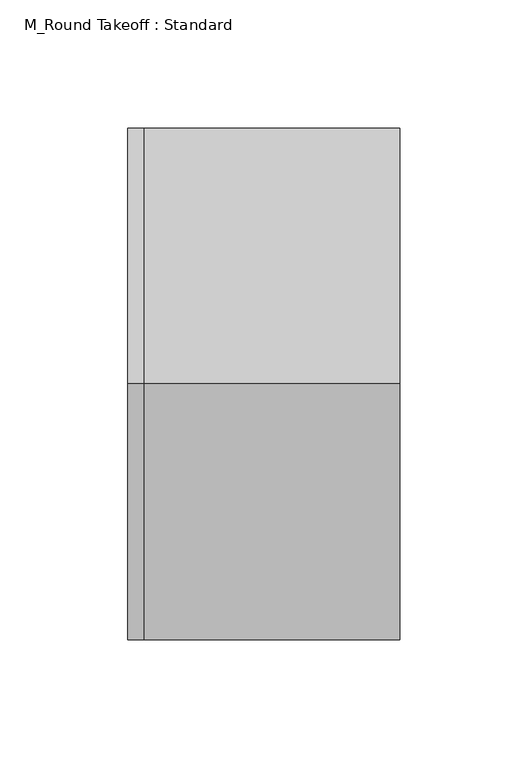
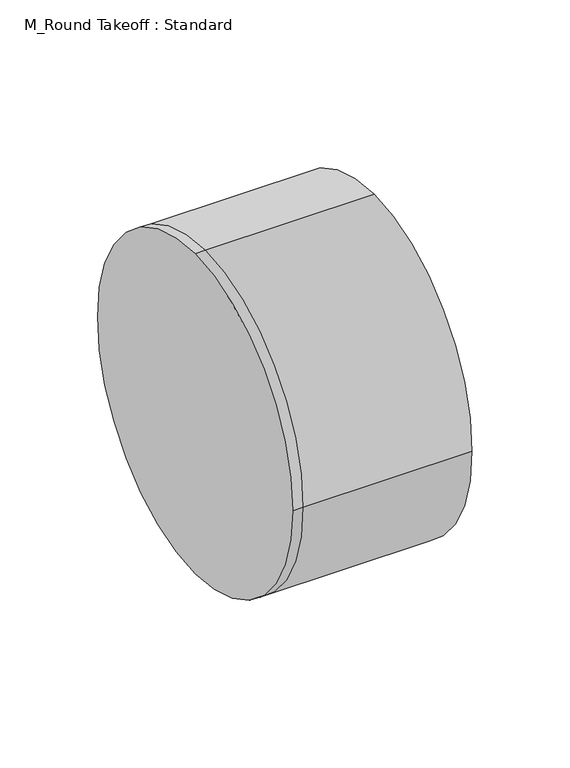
"""IFC4 building model written with IfcOpenShell, lengths in millimetres: duct fitting geometry, M_Round Takeoff : Standard."""

from ifc_helpers import new_model, si_unit, frame, origin, place, context, project, spatial, circle_curve, source, transform, mapped, element, save
from ifc_brep_helpers import plane_surface, cylinder_surface, advanced_brep


def m_round_takeoff_standard_2096653f(model_context):
    return source(origin(), model_context, "Body", "AdvancedBrep", [
        advanced_brep(
        [(-6.0975381, 0.0, 100.0), (-6.0975381, 100.0, 0.0), (-6.0975381, 0.0, -100.0), (-6.0975381, -100.0, 0.0), (0.0, -100.0, 0.0), (0.0, 0.0, 100.0), (0.0, 0.0, -100.0), (0.0, 100.0, 0.0), (100.0015381, 0.0, 100.0), (100.0015381, -100.0, 0.0), (100.0015381, 0.0, -100.0), (100.0015381, 100.0, 0.0)],
        [
            (0, 1, circle_curve(frame((-6.0975381, 0.0, 0.0), z_axis=(-1.0, 0.0, 0.0), x_axis=(0.0, -1.0, 0.0)), 100.0)),
            (1, 2, circle_curve(frame((-6.0975381, 0.0, 0.0), z_axis=(-1.0, 0.0, 0.0), x_axis=(0.0, -1.0, 0.0)), 100.0)),
            (2, 3, circle_curve(frame((-6.0975381, 0.0, 0.0), z_axis=(-1.0, 0.0, 0.0), x_axis=(0.0, -1.0, 0.0)), 100.0)),
            (3, 0, circle_curve(frame((-6.0975381, 0.0, 0.0), z_axis=(-1.0, 0.0, 0.0), x_axis=(0.0, -1.0, 0.0)), 100.0)),
            (3, 4),
            (4, 5, circle_curve(frame((0.0, 0.0, 0.0), z_axis=(-1.0, 0.0, 0.0), x_axis=(0.0, -1.0, 0.0)), 100.0)),
            (5, 0),
            (2, 6),
            (6, 4, circle_curve(frame((0.0, 0.0, 0.0), z_axis=(-1.0, 0.0, 0.0), x_axis=(0.0, -1.0, 0.0)), 100.0)),
            (1, 7),
            (7, 6, circle_curve(frame((0.0, 0.0, 0.0), z_axis=(-1.0, 0.0, 0.0), x_axis=(0.0, -1.0, 0.0)), 100.0)),
            (5, 7, circle_curve(frame((0.0, 0.0, 0.0), z_axis=(-1.0, 0.0, 0.0), x_axis=(0.0, -1.0, 0.0)), 100.0)),
            (8, 9, circle_curve(frame((100.0015381, 0.0, 0.0), z_axis=(1.0, 0.0, 0.0), x_axis=(0.0, -1.0, 0.0)), 100.0)),
            (9, 10, circle_curve(frame((100.0015381, 0.0, 0.0), z_axis=(1.0, 0.0, 0.0), x_axis=(0.0, -1.0, 0.0)), 100.0)),
            (10, 11, circle_curve(frame((100.0015381, 0.0, 0.0), z_axis=(1.0, 0.0, 0.0), x_axis=(0.0, -1.0, 0.0)), 100.0)),
            (11, 8, circle_curve(frame((100.0015381, 0.0, 0.0), z_axis=(1.0, 0.0, 0.0), x_axis=(0.0, -1.0, 0.0)), 100.0)),
            (8, 5),
            (4, 9),
            (6, 10),
            (7, 11),
        ],
        [
            plane_surface(frame((-6.0975381, 0.0, 0.0), z_axis=(-1.0, 0.0, 0.0), x_axis=(0.0, 0.0, 1.0))),
            cylinder_surface(frame((-6.0975381, 0.0, 0.0), z_axis=(-1.0, 0.0, 0.0), x_axis=(0.0, -1.0, 0.0)), 100.0),
            plane_surface(frame((100.0015381, 0.0, 0.0), z_axis=(1.0, 0.0, 0.0), x_axis=(0.0, 0.0, 1.0))),
            cylinder_surface(frame((0.0, 0.0, 0.0), z_axis=(-1.0, 0.0, 0.0), x_axis=(0.0, -1.0, 0.0)), 100.0),
        ],
        [
            (0, [[1, 2, 3, 4]]),
            (1, [[5, 6, 7, -4]]),
            (1, [[8, 9, -5, -3]]),
            (1, [[10, 11, -8, -2]]),
            (1, [[-7, 12, -10, -1]]),
            (2, [[13, 14, 15, 16]]),
            (3, [[17, -6, 18, -13]]),
            (3, [[-18, -9, 19, -14]]),
            (3, [[-19, -11, 20, -15]]),
            (3, [[-20, -12, -17, -16]]),
        ],
    ),
        advanced_brep(
        [(100.0015381, 0.0, 100.0), (100.0015381, -100.0, 0.0), (100.0015381, 0.0, -100.0), (100.0015381, 100.0, 0.0), (0.0, 0.0, 100.0), (0.0, -100.0, 0.0), (0.0, 0.0, -100.0), (0.0, 100.0, 0.0), (-6.0975381, 0.0, 100.0), (-6.0975381, 100.0, 0.0), (-6.0975381, 0.0, -100.0), (-6.0975381, -100.0, 0.0)],
        [
            (0, 1, circle_curve(frame((100.0015381, 0.0, 0.0), z_axis=(1.0, 0.0, 0.0), x_axis=(0.0, -1.0, 0.0)), 100.0)),
            (1, 2, circle_curve(frame((100.0015381, 0.0, 0.0), z_axis=(1.0, 0.0, 0.0), x_axis=(0.0, -1.0, 0.0)), 100.0)),
            (2, 3, circle_curve(frame((100.0015381, 0.0, 0.0), z_axis=(1.0, 0.0, 0.0), x_axis=(0.0, -1.0, 0.0)), 100.0)),
            (3, 0, circle_curve(frame((100.0015381, 0.0, 0.0), z_axis=(1.0, 0.0, 0.0), x_axis=(0.0, -1.0, 0.0)), 100.0)),
            (0, 4),
            (4, 5, circle_curve(frame((0.0, 0.0, 0.0), z_axis=(1.0, 0.0, 0.0), x_axis=(0.0, -1.0, 0.0)), 100.0)),
            (5, 1),
            (5, 6, circle_curve(frame((0.0, 0.0, 0.0), z_axis=(1.0, 0.0, 0.0), x_axis=(0.0, -1.0, 0.0)), 100.0)),
            (6, 2),
            (6, 7, circle_curve(frame((0.0, 0.0, 0.0), z_axis=(1.0, 0.0, 0.0), x_axis=(0.0, -1.0, 0.0)), 100.0)),
            (7, 3),
            (7, 4, circle_curve(frame((0.0, 0.0, 0.0), z_axis=(1.0, 0.0, 0.0), x_axis=(0.0, -1.0, 0.0)), 100.0)),
            (8, 9, circle_curve(frame((-6.0975381, 0.0, 0.0), z_axis=(-1.0, 0.0, 0.0), x_axis=(0.0, -1.0, 0.0)), 100.0)),
            (9, 10, circle_curve(frame((-6.0975381, 0.0, 0.0), z_axis=(-1.0, 0.0, 0.0), x_axis=(0.0, -1.0, 0.0)), 100.0)),
            (10, 11, circle_curve(frame((-6.0975381, 0.0, 0.0), z_axis=(-1.0, 0.0, 0.0), x_axis=(0.0, -1.0, 0.0)), 100.0)),
            (11, 8, circle_curve(frame((-6.0975381, 0.0, 0.0), z_axis=(-1.0, 0.0, 0.0), x_axis=(0.0, -1.0, 0.0)), 100.0)),
            (11, 5),
            (4, 8),
            (10, 6),
            (9, 7),
        ],
        [
            plane_surface(frame((100.0015381, 0.0, 0.0), z_axis=(1.0, 0.0, 0.0), x_axis=(0.0, 0.0, 1.0))),
            cylinder_surface(frame((0.0, 0.0, 0.0), z_axis=(-1.0, 0.0, 0.0), x_axis=(0.0, -1.0, 0.0)), 100.0),
            plane_surface(frame((-6.0975381, 0.0, 0.0), z_axis=(-1.0, 0.0, 0.0), x_axis=(0.0, 0.0, 1.0))),
            cylinder_surface(frame((-6.0975381, 0.0, 0.0), z_axis=(-1.0, 0.0, 0.0), x_axis=(0.0, -1.0, 0.0)), 100.0),
        ],
        [
            (0, [[1, 2, 3, 4]]),
            (1, [[5, 6, 7, -1]]),
            (1, [[-7, 8, 9, -2]]),
            (1, [[-9, 10, 11, -3]]),
            (1, [[-11, 12, -5, -4]]),
            (2, [[13, 14, 15, 16]]),
            (3, [[17, -6, 18, -16]]),
            (3, [[19, -8, -17, -15]]),
            (3, [[20, -10, -19, -14]]),
            (3, [[-18, -12, -20, -13]]),
        ],
    ),
        advanced_brep(
        [(-6.0975381, 0.0, 100.0), (-6.0975381, 100.0, 0.0), (-6.0975381, 0.0, -100.0), (-6.0975381, -100.0, 0.0), (0.0, -100.0, 0.0), (0.0, 0.0, 100.0), (0.0, 0.0, -100.0), (0.0, 100.0, 0.0), (100.0015381, 0.0, 100.0), (100.0015381, -100.0, 0.0), (100.0015381, 0.0, -100.0), (100.0015381, 100.0, 0.0)],
        [
            (0, 1, circle_curve(frame((-6.0975381, 0.0, 0.0), z_axis=(-1.0, 0.0, 0.0), x_axis=(0.0, -1.0, 0.0)), 100.0)),
            (1, 2, circle_curve(frame((-6.0975381, 0.0, 0.0), z_axis=(-1.0, 0.0, 0.0), x_axis=(0.0, -1.0, 0.0)), 100.0)),
            (2, 3, circle_curve(frame((-6.0975381, 0.0, 0.0), z_axis=(-1.0, 0.0, 0.0), x_axis=(0.0, -1.0, 0.0)), 100.0)),
            (3, 0, circle_curve(frame((-6.0975381, 0.0, 0.0), z_axis=(-1.0, 0.0, 0.0), x_axis=(0.0, -1.0, 0.0)), 100.0)),
            (3, 4),
            (4, 5, circle_curve(frame((0.0, 0.0, 0.0), z_axis=(-1.0, 0.0, 0.0), x_axis=(0.0, -1.0, 0.0)), 100.0)),
            (5, 0),
            (2, 6),
            (6, 4, circle_curve(frame((0.0, 0.0, 0.0), z_axis=(-1.0, 0.0, 0.0), x_axis=(0.0, -1.0, 0.0)), 100.0)),
            (1, 7),
            (7, 6, circle_curve(frame((0.0, 0.0, 0.0), z_axis=(-1.0, 0.0, 0.0), x_axis=(0.0, -1.0, 0.0)), 100.0)),
            (5, 7, circle_curve(frame((0.0, 0.0, 0.0), z_axis=(-1.0, 0.0, 0.0), x_axis=(0.0, -1.0, 0.0)), 100.0)),
            (8, 9, circle_curve(frame((100.0015381, 0.0, 0.0), z_axis=(1.0, 0.0, 0.0), x_axis=(0.0, -1.0, 0.0)), 100.0)),
            (9, 10, circle_curve(frame((100.0015381, 0.0, 0.0), z_axis=(1.0, 0.0, 0.0), x_axis=(0.0, -1.0, 0.0)), 100.0)),
            (10, 11, circle_curve(frame((100.0015381, 0.0, 0.0), z_axis=(1.0, 0.0, 0.0), x_axis=(0.0, -1.0, 0.0)), 100.0)),
            (11, 8, circle_curve(frame((100.0015381, 0.0, 0.0), z_axis=(1.0, 0.0, 0.0), x_axis=(0.0, -1.0, 0.0)), 100.0)),
            (8, 5),
            (4, 9),
            (6, 10),
            (7, 11),
        ],
        [
            plane_surface(frame((-6.0975381, 0.0, 0.0), z_axis=(-1.0, 0.0, 0.0), x_axis=(0.0, 0.0, 1.0))),
            cylinder_surface(frame((-6.0975381, 0.0, 0.0), z_axis=(-1.0, 0.0, 0.0), x_axis=(0.0, -1.0, 0.0)), 100.0),
            plane_surface(frame((100.0015381, 0.0, 0.0), z_axis=(1.0, 0.0, 0.0), x_axis=(0.0, 0.0, 1.0))),
            cylinder_surface(frame((0.0, 0.0, 0.0), z_axis=(-1.0, 0.0, 0.0), x_axis=(0.0, -1.0, 0.0)), 100.0),
        ],
        [
            (0, [[1, 2, 3, 4]]),
            (1, [[5, 6, 7, -4]]),
            (1, [[8, 9, -5, -3]]),
            (1, [[10, 11, -8, -2]]),
            (1, [[-7, 12, -10, -1]]),
            (2, [[13, 14, 15, 16]]),
            (3, [[17, -6, 18, -13]]),
            (3, [[-18, -9, 19, -14]]),
            (3, [[-19, -11, 20, -15]]),
            (3, [[-20, -12, -17, -16]]),
        ],
    ),
    ])


if __name__ == "__main__":
    model = new_model("IFC4")
    model_context = context("Model", 3, world=origin())
    ifc_project = project(units=[si_unit("LENGTHUNIT", "METRE", prefix="MILLI")], contexts=[model_context])
    site = spatial("IfcSite", under=ifc_project)
    building = spatial("IfcBuilding", under=site)
    placement = place(None, origin())
    m_round_takeoff_standard_shape = m_round_takeoff_standard_2096653f(model_context)
    element("IfcDuctFitting", 1, ObjectType="M_Round Takeoff : Standard", at=placement, inside=building, context=model_context, shape_type="MappedRepresentation", body=[
        mapped(m_round_takeoff_standard_shape, transform((0.0, 0.0, 0.0), x_axis=(1.0, 0.0, 0.0), y_axis=(0.0, 1.0, 0.0), z_axis=(0.0, 0.0, 1.0))),
    ])
    save(model, "model.ifc")
